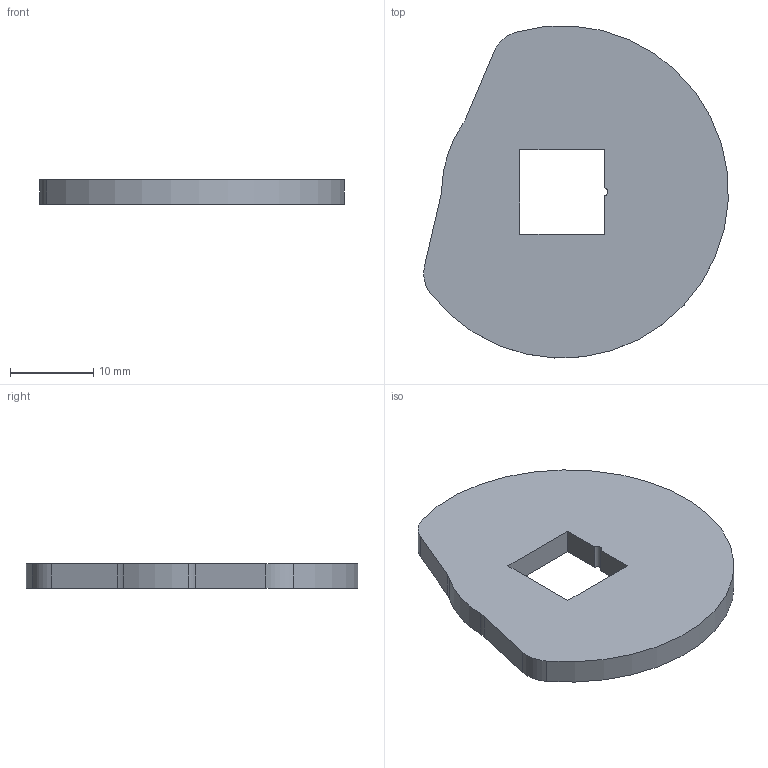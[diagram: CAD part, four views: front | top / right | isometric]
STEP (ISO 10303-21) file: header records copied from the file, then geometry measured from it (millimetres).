
FILE_DESCRIPTION(/* description */ ('STEP AP242','CAx-IF Rec.Pracs.---Representation and Presentation of Product Manufacturing Information (PMI)---4.0---2014-10-13','CAx-IF Rec.Pracs.---3D Tessellated Geometry---0.4---2014-09-14','2;1'),/* implementation_level */ '2;1');
FILE_NAME(/* name */ 'Part Studio 1 - Segment C Cam',/* time_stamp */ '2025-09-04T05:47:29Z',/* author */ (''),/* organization */ (''),/* preprocessor_version */ 'ST-DEVELOPER v20',/* originating_system */ 'ONSHAPE BY PTC INC, 1.203',/* authorisation */ ' ');
FILE_SCHEMA (('AP242_MANAGED_MODEL_BASED_3D_ENGINEERING_MIM_LF { 1 0 10303 442 1 1 4 }'));
Length unit declared in the file: metre
Products named in the file (1): Segment C Cam
Bounding box: 36.63 x 39.94 x 3 mm (x, y, z)
Volume: 3066.3 mm3; surface area: 2531.4 mm2
Topology: 1 solids, 1 shells, 16 faces, 42 edges, 28 vertices
Faces by surface type: plane 9, cylinder 7
Entity records: 526 total; most frequent: DIRECTION 90, CARTESIAN_POINT 87, ORIENTED_EDGE 84, EDGE_CURVE 42, AXIS2_PLACEMENT_3D 31, VERTEX_POINT 28, LINE 28, VECTOR 28
